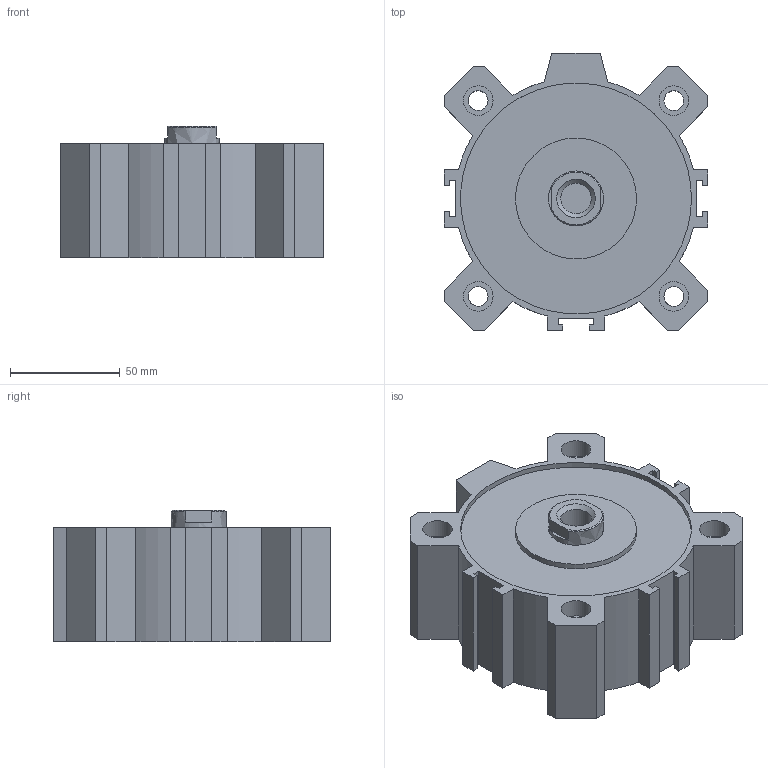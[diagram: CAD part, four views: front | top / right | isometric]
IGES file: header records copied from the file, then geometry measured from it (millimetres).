
Global section: file name: 1512_100_0005; native system: Autodesk Inventor 2014; preprocessor: unknown; author: A. Manieri; date: 20160907.151254; units: millimetre
Bounding box: 120 x 126 x 60 mm (x, y, z)
Volume: 538969 mm3; surface area: 113096.9 mm2
Topology: 2 solids, 2 shells, 118 faces, 302 edges, 206 vertices
Faces by surface type: bspline 118
